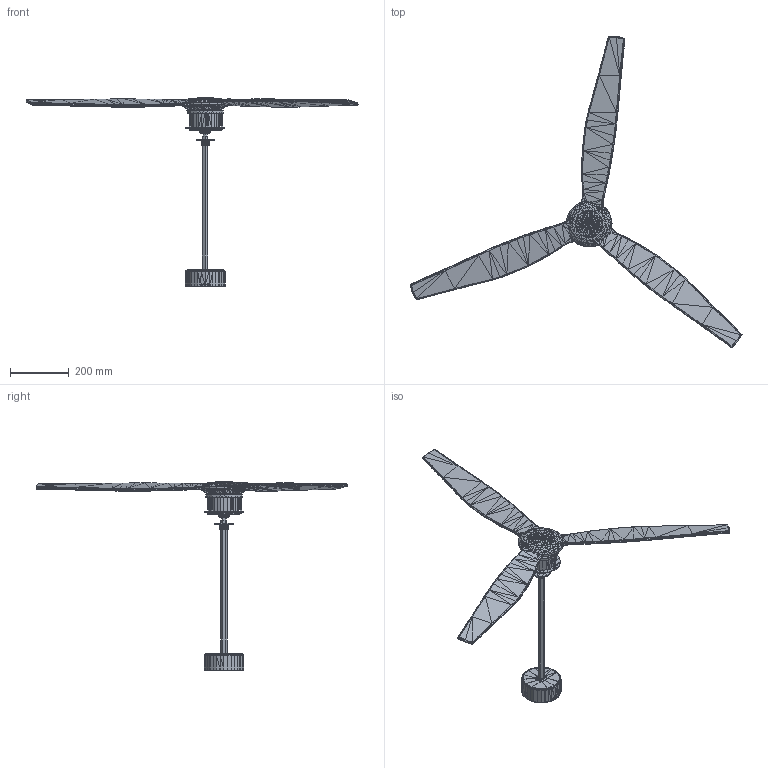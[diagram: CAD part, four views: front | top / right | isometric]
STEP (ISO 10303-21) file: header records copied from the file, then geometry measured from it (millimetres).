
FILE_DESCRIPTION(/* description */ (''),/* implementation_level */ '2;1');
FILE_NAME(/* name */ '32110WP.step',/* time_stamp */ '2024-04-25T17:00:59+02:00',/* author */ ('RenataManzini'),/* organization */ (''),/* preprocessor_version */ 'ST-DEVELOPER v20',/* originating_system */ 'AutoCAD Mechanical',/* authorisation */ '');
FILE_SCHEMA (('AUTOMOTIVE_DESIGN { 1 0 10303 214 3 1 1 }'));
Products named in the file (2): Product; 32100_33394_33395_33398_33399_33417_33418_JUSTFAN_motor - JUST FAN-45
8626-_3D_
Assembly tree (1 placements, depth 2):
  Product
    32100_33394_33395_33398_33399_33417_33418_JUSTFAN_motor - JUST FAN-45
8626-_3D_
Bounding box: 1127.17 x 1057.97 x 640.8 mm (x, y, z)
Surface area: 613314.5 mm2 (no closed solid volume)
Topology: 0 solids, 13647 shells, 13649 faces, 43124 edges, 43124 vertices
Faces by surface type: plane 13649
Entity records: 495188 total; most frequent: CARTESIAN_POINT 99901, DIRECTION 70429, LINE 43123, VECTOR 43123, ORIENTED_EDGE 43123, EDGE_CURVE 43121, VERTEX_POINT 43119, AXIS2_PLACEMENT_3D 13653
